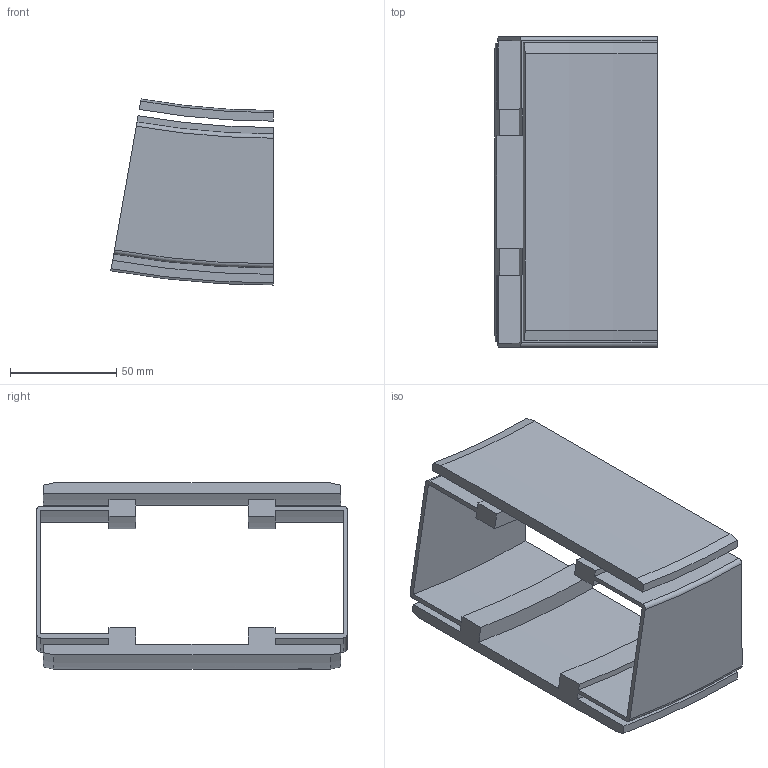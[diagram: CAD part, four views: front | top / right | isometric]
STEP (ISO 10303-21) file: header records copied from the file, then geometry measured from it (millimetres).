
FILE_DESCRIPTION(/* description */ ('VERTIKALKURVA S540 R400'),/* implementation_level */ '2;1');
FILE_NAME(/* name */ '540-5645+140-2000-NER-01.stp',/* time_stamp */ '2022-09-21T10:43:33+02:00',/* author */ ('Mathias.Dore'),/* organization */ ('CARRYLINE'),/* preprocessor_version */ 'ST-DEVELOPER v19.2',/* originating_system */ 'Autodesk Inventor 2023',/* authorisation */ '');
FILE_SCHEMA (('AUTOMOTIVE_DESIGN { 1 0 10303 214 3 1 1 }'));
Length unit declared in the file: millimetre
Products named in the file (1): 540-5645+140-2000-NER-01
Bounding box: 76.32 x 146 x 87.43 mm (x, y, z)
Volume: 159823.8 mm3; surface area: 87011.3 mm2
Topology: 2 solids, 2 shells, 87 faces, 234 edges, 156 vertices
Faces by surface type: plane 40, cylinder 25, bspline 14, cone 4, torus 4
Entity records: 7378 total; most frequent: CARTESIAN_POINT 5179, ORIENTED_EDGE 468, DIRECTION 408, EDGE_CURVE 234, VERTEX_POINT 156, AXIS2_PLACEMENT_3D 141, LINE 126, VECTOR 126
